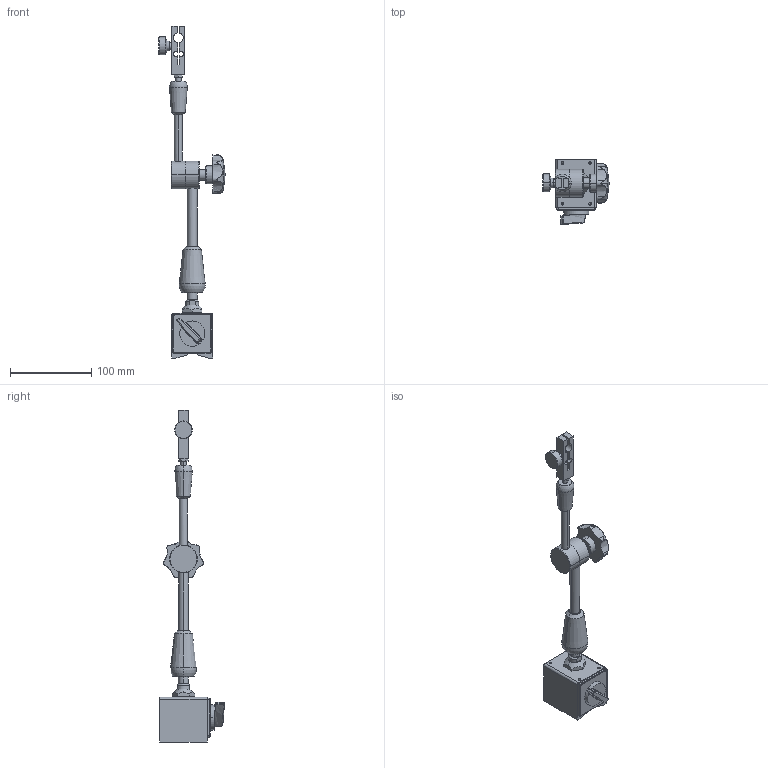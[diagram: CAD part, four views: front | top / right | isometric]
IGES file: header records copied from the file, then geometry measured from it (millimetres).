
Global section: file name: No Iges File Name specified; native system: AutoDesk Inventor R12.0; preprocessor: AutoDesk Inventor Iges Exporter R12.0; author: No Author specified; organization: No Organization specified; date: 20090827.094022; units: millimetre
Bounding box: 81.5 x 79.58 x 408 mm (x, y, z)
Volume: 301002.9 mm3; surface area: 51809.5 mm2
Topology: 1 solids, 2 shells, 210 faces, 512 edges, 315 vertices
Faces by surface type: plane 69, cylinder 53, bspline 35, cone 27, revolution 12, sphere 8, torus 6
